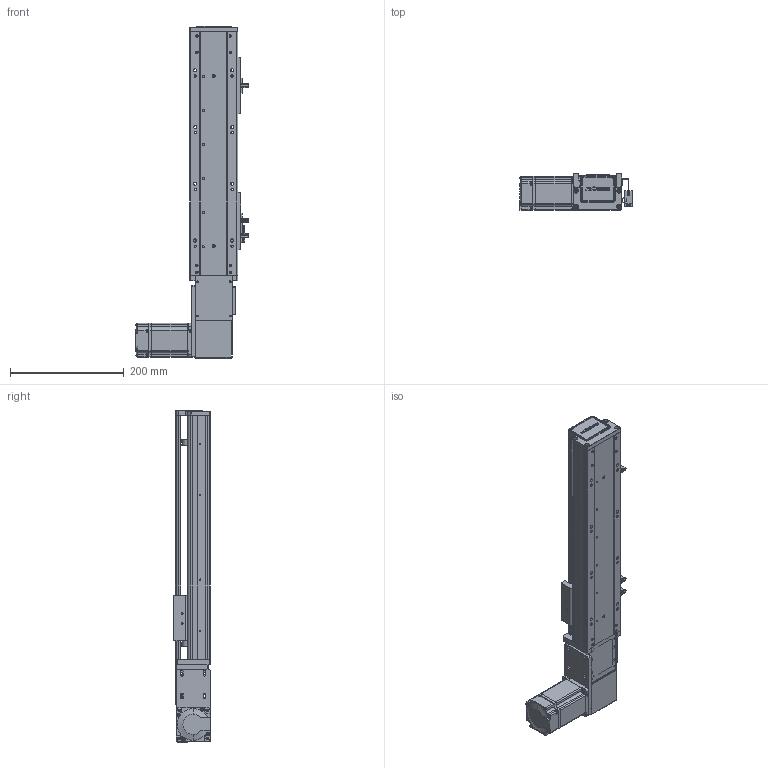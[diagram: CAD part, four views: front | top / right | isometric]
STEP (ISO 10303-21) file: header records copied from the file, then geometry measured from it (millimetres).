
FILE_DESCRIPTION (( 'STEP AP203' ), '1' );
FILE_NAME ('RY80-T-300-LK.SLDASM_250.step', '2021-03-01T01:57:44', ( '盈信电脑' ), ( '东莞市道滘镇水果街19号' ), 'SwSTEP 2.0', 'SolidWorks 2012', '' );
FILE_SCHEMA (( 'CONFIG_CONTROL_DESIGN' ));
Products named in the file (19): RY80-T-300-LK.SLDASM_250; RY80-T肮祭謫俋欶; RY80-T-M4蹟翐; RY80-T萇儂假蚾啣; 侂狟200W萇儂; 1; RY80-T翋肮祭謫裔啣; 滅袉蝶18-10; RY80-T粣創揤踡輸; RY80-T-翋肮祭謫釱; RY80-T肮祭湍揤輸1; RY80-T肮祭湍揤輸2; 覜茼ん672; 672嫖萇羲壽假蚾釱; RY80-T綴裔啣; RY80俋离覜茼え; RY80-T肮祭謫臏賑輸; RY80-T-300-LK倰第奻裔啣_250; RY80-T-300-LK倰第菁釱_250
Assembly tree (24 placements, depth 3):
  RY80-T-300-LK.SLDASM_250
    RY80-T-300-LK倰第菁釱_250
    RY80-T肮祭謫臏賑輸
    RY80-T-300-LK倰第奻裔啣_250
    RY80-T綴裔啣
    672嫖萇羲壽假蚾釱  x2
    覜茼ん672  x3
    RY80俋离覜茼え
    RY80-T-翋肮祭謫釱
    RY80-T肮祭湍揤輸1
    RY80-T肮祭湍揤輸2
    RY80-T粣創揤踡輸
    RY80-T翋肮祭謫裔啣  x2
    滅袉蝶18-10  x2
    侂狟200W萇儂
      1
    RY80-T肮祭謫俋欶
    RY80-T萇儂假蚾啣
    RY80-T-M4蹟翐  x2
Bounding box: 198.7 x 65 x 585 mm (x, y, z)
Volume: 1208355.5 mm3; surface area: 471638.1 mm2
Topology: 23 solids, 23 shells, 2326 faces, 6382 edges, 4143 vertices
Faces by surface type: plane 1293, cylinder 831, cone 146, bspline 56
Entity records: 71649 total; most frequent: CARTESIAN_POINT 16647, ORIENTED_EDGE 11208, DIRECTION 10652, EDGE_CURVE 5604, VERTEX_POINT 3684, LINE 3578, VECTOR 3578, AXIS2_PLACEMENT_3D 3537
